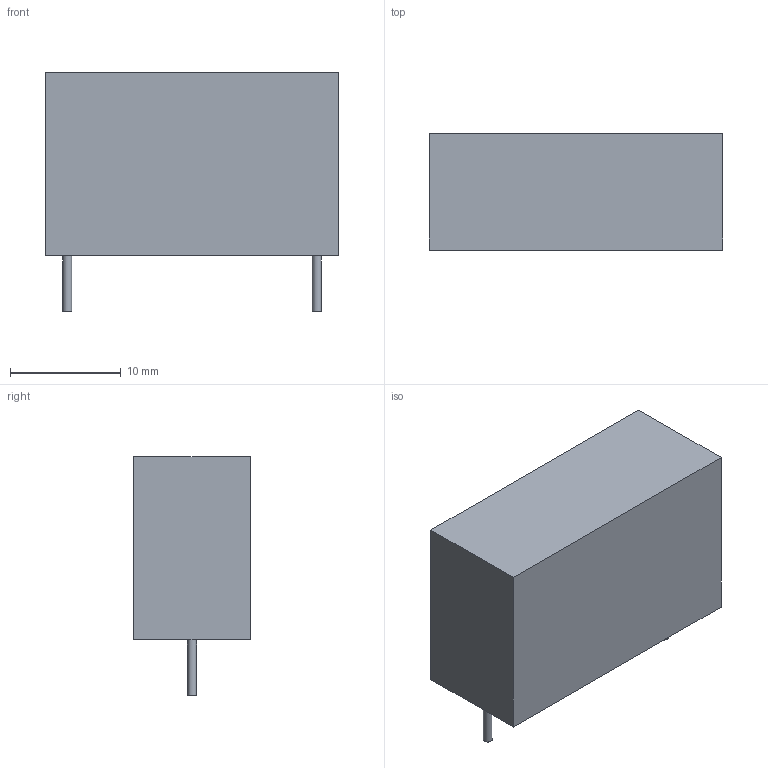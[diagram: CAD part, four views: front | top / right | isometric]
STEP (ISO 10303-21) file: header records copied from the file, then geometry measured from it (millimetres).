
FILE_DESCRIPTION(('STEP AP214'),'1');
FILE_NAME('CAP_B32923C3684K000_TDK','2024-02-24T07:13:51',(''),(''),'','','');
FILE_SCHEMA(('AUTOMOTIVE_DESIGN'));
Length unit declared in the file: millimetre
Products named in the file (1): product
Bounding box: 26.49 x 10.49 x 21.49 mm (x, y, z)
Volume: 4593.3 mm3; surface area: 1804.4 mm2
Topology: 3 solids, 3 shells, 12 faces, 18 edges, 12 vertices
Faces by surface type: plane 10, cylinder 2
Full cylindrical faces by diameter (mm): 0.813 x2
Entity records: 428 total; most frequent: DIRECTION 50, ORIENTED_EDGE 32, CARTESIAN_POINT 31, AXIS2_PLACEMENT_3D 19, PRESENTATION_STYLE_ASSIGNMENT 17, SURFACE_STYLE_USAGE 17, SURFACE_SIDE_STYLE 17, SURFACE_STYLE_FILL_AREA 17
